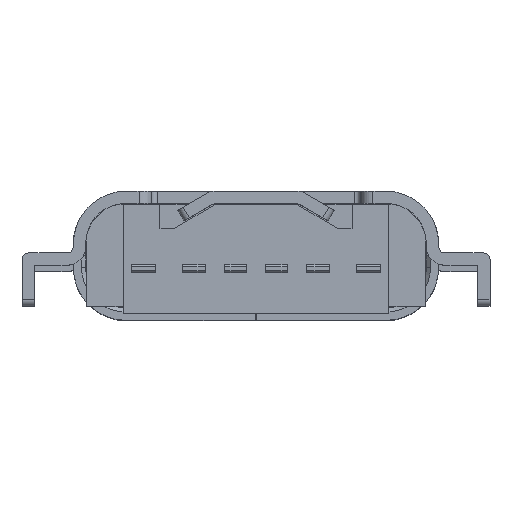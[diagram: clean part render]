
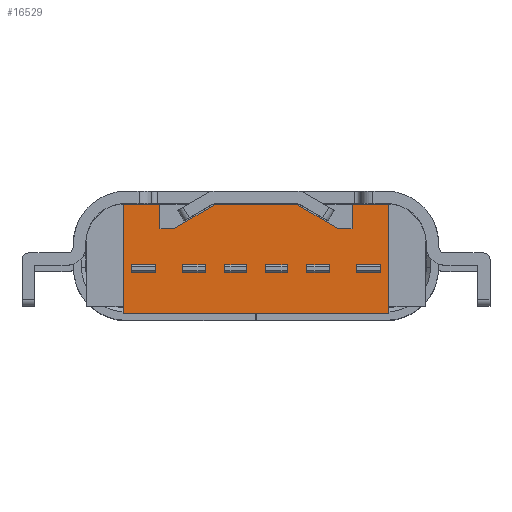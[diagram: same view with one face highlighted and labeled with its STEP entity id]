
A CAD part, top view. The second image highlights one B-rep face of the part: STEP entity #16529.
In plain terms, the highlighted planar face has unit normal (0, 0, 1) as drawn and (0, 0, -1) by its records, which use the part's own axes.
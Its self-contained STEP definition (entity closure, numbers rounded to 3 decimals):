
#128 = CARTESIAN_POINT ( 'NONE',  ( -1.761, 1.667, 0.33 ) ) ;
#200 = CARTESIAN_POINT ( 'NONE',  ( -2.661, 1.667, 0.33 ) ) ;
#251 = DIRECTION ( 'NONE',  ( 0., 1., 0. ) ) ;
#344 = VERTEX_POINT ( 'NONE', #4251 ) ;
#429 = VECTOR ( 'NONE', #5942, 1000. ) ;
#1410 = VECTOR ( 'NONE', #12375, 1000. ) ;
#1553 = CARTESIAN_POINT ( 'NONE',  ( -2.661, 1.667, 0.33 ) ) ;
#1670 = DIRECTION ( 'NONE',  ( 0., 0., 1. ) ) ;
#1793 = ORIENTED_EDGE ( 'NONE', *, *, #5588, .F. ) ;
#1841 = DIRECTION ( 'NONE',  ( 0.86, -0.511, 0. ) ) ;
#1859 = ORIENTED_EDGE ( 'NONE', *, *, #11175, .F. ) ;
#1932 = VERTEX_POINT ( 'NONE', #11731 ) ;
#2319 = CARTESIAN_POINT ( 'NONE',  ( -1.761, 1.667, 0.33 ) ) ;
#2322 = DIRECTION ( 'NONE',  ( 0., -1., 0. ) ) ;
#2444 = VERTEX_POINT ( 'NONE', #14628 ) ;
#3128 = VERTEX_POINT ( 'NONE', #200 ) ;
#3280 = DIRECTION ( 'NONE',  ( 1., 0., 0. ) ) ;
#3675 = DIRECTION ( 'NONE',  ( -1., 0., 0. ) ) ;
#4191 = EDGE_CURVE ( 'NONE', #6712, #11292, #22498, .T. ) ;
#4251 = CARTESIAN_POINT ( 'NONE',  ( -1.761, 1.067, 0.33 ) ) ;
#4254 = VERTEX_POINT ( 'NONE', #128 ) ;
#4544 = VECTOR ( 'NONE', #22858, 1000. ) ;
#4603 = VERTEX_POINT ( 'NONE', #22374 ) ;
#4681 = ORIENTED_EDGE ( 'NONE', *, *, #8224, .T. ) ;
#5249 = FACE_OUTER_BOUND ( 'NONE', #5459, .T. ) ;
#5459 = EDGE_LOOP ( 'NONE', ( #12490, #4681, #12453, #1793, #15068, #20842, #21075, #12743, #13220, #6873, #10506, #1859, #11782, #9173 ) ) ;
#5588 = EDGE_CURVE ( 'NONE', #9751, #6712, #9380, .T. ) ;
#5752 = LINE ( 'NONE', #7099, #17850 ) ;
#5942 = DIRECTION ( 'NONE',  ( 0., -1., 0. ) ) ;
#6141 = LINE ( 'NONE', #2319, #13481 ) ;
#6217 = LINE ( 'NONE', #13719, #8690 ) ;
#6370 = EDGE_CURVE ( 'NONE', #11466, #22535, #6217, .T. ) ;
#6588 = LINE ( 'NONE', #12246, #1410 ) ;
#6712 = VERTEX_POINT ( 'NONE', #13575 ) ;
#6839 = VERTEX_POINT ( 'NONE', #7909 ) ;
#6873 = ORIENTED_EDGE ( 'NONE', *, *, #20965, .F. ) ;
#6958 = EDGE_CURVE ( 'NONE', #16062, #2444, #10717, .T. ) ;
#7099 = CARTESIAN_POINT ( 'NONE',  ( -2.661, -1.013, 0.33 ) ) ;
#7817 = DIRECTION ( 'NONE',  ( 0., -1., 0. ) ) ;
#7909 = CARTESIAN_POINT ( 'NONE',  ( 3.839, -1.013, 0.33 ) ) ;
#8224 = EDGE_CURVE ( 'NONE', #1932, #11292, #15118, .T. ) ;
#8313 = VECTOR ( 'NONE', #19984, 1000. ) ;
#8588 = CARTESIAN_POINT ( 'NONE',  ( -2.661, 1.667, 0.33 ) ) ;
#8647 = EDGE_CURVE ( 'NONE', #1932, #2444, #16579, .T. ) ;
#8690 = VECTOR ( 'NONE', #7817, 1000. ) ;
#8838 = CARTESIAN_POINT ( 'NONE',  ( -2.661, -0.833, 0.33 ) ) ;
#9173 = ORIENTED_EDGE ( 'NONE', *, *, #6958, .T. ) ;
#9328 = CARTESIAN_POINT ( 'NONE',  ( 1.589, 1.667, 0.33 ) ) ;
#9380 = LINE ( 'NONE', #14934, #429 ) ;
#9751 = VERTEX_POINT ( 'NONE', #12276 ) ;
#10191 = CARTESIAN_POINT ( 'NONE',  ( -1.421, 1.067, 0.33 ) ) ;
#10253 = AXIS2_PLACEMENT_3D ( 'NONE', #1553, #1670, #3280 ) ;
#10506 = ORIENTED_EDGE ( 'NONE', *, *, #19315, .T. ) ;
#10712 = CARTESIAN_POINT ( 'NONE',  ( 3.839, 1.667, 0.33 ) ) ;
#10717 = LINE ( 'NONE', #16145, #21630 ) ;
#11175 = EDGE_CURVE ( 'NONE', #344, #4254, #6141, .T. ) ;
#11292 = VERTEX_POINT ( 'NONE', #23598 ) ;
#11310 = LINE ( 'NONE', #15491, #15087 ) ;
#11342 = VECTOR ( 'NONE', #13000, 1000. ) ;
#11466 = VERTEX_POINT ( 'NONE', #8838 ) ;
#11731 = CARTESIAN_POINT ( 'NONE',  ( 1.589, 1.667, 0.33 ) ) ;
#11782 = ORIENTED_EDGE ( 'NONE', *, *, #13633, .F. ) ;
#12246 = CARTESIAN_POINT ( 'NONE',  ( -2.661, 1.067, 0.33 ) ) ;
#12276 = CARTESIAN_POINT ( 'NONE',  ( 2.939, 1.667, 0.33 ) ) ;
#12375 = DIRECTION ( 'NONE',  ( -1., 0., 0. ) ) ;
#12453 = ORIENTED_EDGE ( 'NONE', *, *, #4191, .F. ) ;
#12456 = DIRECTION ( 'NONE',  ( 0.86, 0.511, 0. ) ) ;
#12490 = ORIENTED_EDGE ( 'NONE', *, *, #8647, .F. ) ;
#12743 = ORIENTED_EDGE ( 'NONE', *, *, #13316, .F. ) ;
#13000 = DIRECTION ( 'NONE',  ( -1., 0., 0. ) ) ;
#13220 = ORIENTED_EDGE ( 'NONE', *, *, #6370, .F. ) ;
#13316 = EDGE_CURVE ( 'NONE', #22535, #6839, #5752, .T. ) ;
#13481 = VECTOR ( 'NONE', #251, 1000. ) ;
#13575 = CARTESIAN_POINT ( 'NONE',  ( 2.939, 1.067, 0.33 ) ) ;
#13633 = EDGE_CURVE ( 'NONE', #16062, #344, #6588, .T. ) ;
#13719 = CARTESIAN_POINT ( 'NONE',  ( -2.661, 1.667, 0.33 ) ) ;
#14628 = CARTESIAN_POINT ( 'NONE',  ( -0.411, 1.667, 0.33 ) ) ;
#14934 = CARTESIAN_POINT ( 'NONE',  ( 2.939, 1.667, 0.33 ) ) ;
#14969 = CARTESIAN_POINT ( 'NONE',  ( -2.661, 1.667, 0.33 ) ) ;
#14989 = CARTESIAN_POINT ( 'NONE',  ( -2.661, 1.067, 0.33 ) ) ;
#15068 = ORIENTED_EDGE ( 'NONE', *, *, #16120, .F. ) ;
#15087 = VECTOR ( 'NONE', #2322, 1000. ) ;
#15118 = LINE ( 'NONE', #9328, #21292 ) ;
#15475 = LINE ( 'NONE', #21022, #4544 ) ;
#15491 = CARTESIAN_POINT ( 'NONE',  ( -2.661, 1.667, 0.33 ) ) ;
#16062 = VERTEX_POINT ( 'NONE', #10191 ) ;
#16120 = EDGE_CURVE ( 'NONE', #18710, #9751, #17947, .T. ) ;
#16145 = CARTESIAN_POINT ( 'NONE',  ( -0.411, 1.667, 0.33 ) ) ;
#16529 = ADVANCED_FACE ( 'NONE', ( #5249 ), #20266, .F. ) ;
#16579 = LINE ( 'NONE', #14969, #11342 ) ;
#16594 = DIRECTION ( 'NONE',  ( -1., 0., 0. ) ) ;
#17788 = VECTOR ( 'NONE', #23480, 1000. ) ;
#17850 = VECTOR ( 'NONE', #20754, 1000. ) ;
#17947 = LINE ( 'NONE', #8588, #20063 ) ;
#18710 = VERTEX_POINT ( 'NONE', #10712 ) ;
#19315 = EDGE_CURVE ( 'NONE', #3128, #4254, #15475, .T. ) ;
#19867 = CARTESIAN_POINT ( 'NONE',  ( 3.839, 1.667, 0.33 ) ) ;
#19938 = EDGE_CURVE ( 'NONE', #4603, #18710, #21150, .T. ) ;
#19984 = DIRECTION ( 'NONE',  ( 0., 1., 0. ) ) ;
#20063 = VECTOR ( 'NONE', #16594, 1000. ) ;
#20266 = PLANE ( 'NONE',  #10253 ) ;
#20754 = DIRECTION ( 'NONE',  ( 1., 0., 0. ) ) ;
#20762 = CARTESIAN_POINT ( 'NONE',  ( -2.661, -1.013, 0.33 ) ) ;
#20842 = ORIENTED_EDGE ( 'NONE', *, *, #19938, .F. ) ;
#20965 = EDGE_CURVE ( 'NONE', #3128, #11466, #11310, .T. ) ;
#21022 = CARTESIAN_POINT ( 'NONE',  ( 3.839, 1.667, 0.33 ) ) ;
#21075 = ORIENTED_EDGE ( 'NONE', *, *, #23337, .F. ) ;
#21150 = LINE ( 'NONE', #21523, #17788 ) ;
#21292 = VECTOR ( 'NONE', #1841, 1000. ) ;
#21523 = CARTESIAN_POINT ( 'NONE',  ( 3.839, 1.667, 0.33 ) ) ;
#21630 = VECTOR ( 'NONE', #12456, 1000. ) ;
#21715 = LINE ( 'NONE', #19867, #8313 ) ;
#22374 = CARTESIAN_POINT ( 'NONE',  ( 3.839, -0.833, 0.33 ) ) ;
#22498 = LINE ( 'NONE', #14989, #22685 ) ;
#22535 = VERTEX_POINT ( 'NONE', #20762 ) ;
#22685 = VECTOR ( 'NONE', #3675, 1000. ) ;
#22858 = DIRECTION ( 'NONE',  ( 1., 0., 0. ) ) ;
#23337 = EDGE_CURVE ( 'NONE', #6839, #4603, #21715, .T. ) ;
#23480 = DIRECTION ( 'NONE',  ( 0., 1., 0. ) ) ;
#23598 = CARTESIAN_POINT ( 'NONE',  ( 2.599, 1.067, 0.33 ) ) ;
